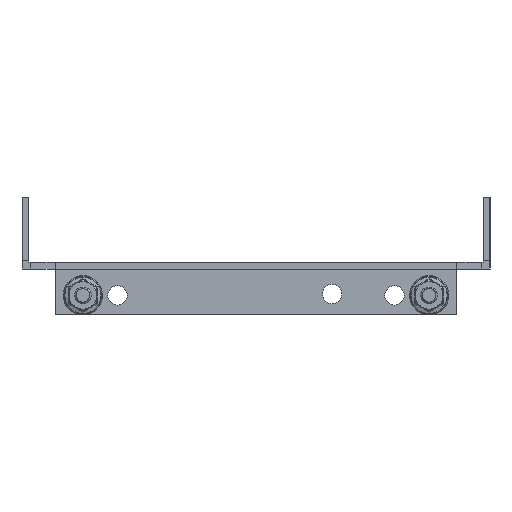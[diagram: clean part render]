
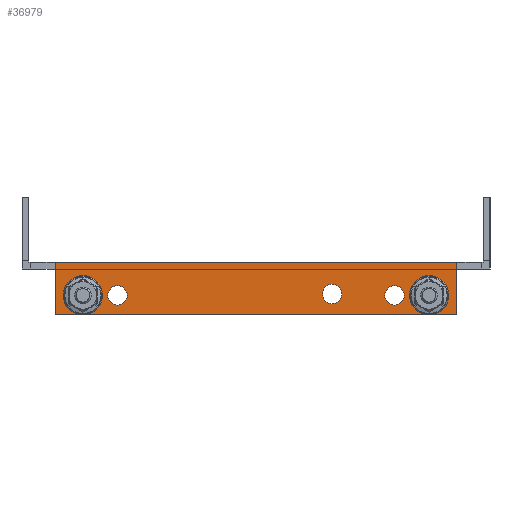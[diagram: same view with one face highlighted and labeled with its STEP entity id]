
A CAD part, left-side view. The second image highlights one B-rep face of the part: STEP entity #36979.
In plain terms, the highlighted planar face has unit normal (-1, 0, 0).
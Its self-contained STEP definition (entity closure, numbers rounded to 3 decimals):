
#24914 = VERTEX_POINT('',#24915);
#24915 = CARTESIAN_POINT('',(-550.,72.5,2.5));
#24921 = EDGE_CURVE('',#24922,#24914,#24924,.T.);
#24922 = VERTEX_POINT('',#24923);
#24923 = CARTESIAN_POINT('',(-550.,-72.5,2.5));
#24924 = LINE('',#24925,#24926);
#24925 = CARTESIAN_POINT('',(-550.,-82.,2.5));
#24926 = VECTOR('',#24927,1.);
#24927 = DIRECTION('',(-0.,1.,-0.));
#36858 = VERTEX_POINT('',#36859);
#36859 = CARTESIAN_POINT('',(-550.,-72.5,-0.6));
#36874 = EDGE_CURVE('',#36858,#24922,#36875,.T.);
#36875 = LINE('',#36876,#36877);
#36876 = CARTESIAN_POINT('',(-550.,-72.5,-0.6));
#36877 = VECTOR('',#36878,1.);
#36878 = DIRECTION('',(0.,-0.,1.));
#36898 = VERTEX_POINT('',#36899);
#36899 = CARTESIAN_POINT('',(-550.,72.5,-0.6));
#36905 = EDGE_CURVE('',#36898,#24914,#36906,.T.);
#36906 = LINE('',#36907,#36908);
#36907 = CARTESIAN_POINT('',(-550.,72.5,0.));
#36908 = VECTOR('',#36909,1.);
#36909 = DIRECTION('',(0.,0.,1.));
#36921 = EDGE_CURVE('',#36922,#36898,#36924,.T.);
#36922 = VERTEX_POINT('',#36923);
#36923 = CARTESIAN_POINT('',(-550.,72.5,-16.5));
#36924 = LINE('',#36925,#36926);
#36925 = CARTESIAN_POINT('',(-550.,72.5,0.));
#36926 = VECTOR('',#36927,1.);
#36927 = DIRECTION('',(0.,-0.,1.));
#36961 = EDGE_CURVE('',#36858,#36962,#36964,.T.);
#36962 = VERTEX_POINT('',#36963);
#36963 = CARTESIAN_POINT('',(-550.,-72.5,-16.5));
#36964 = LINE('',#36965,#36966);
#36965 = CARTESIAN_POINT('',(-550.,-72.5,-16.5));
#36966 = VECTOR('',#36967,1.);
#36967 = DIRECTION('',(0.,-0.,-1.));
#36979 = ADVANCED_FACE('',(#36980,#36991,#37011,#37031,#37042,#37053),
  #37066,.T.);
#36980 = FACE_BOUND('',#36981,.T.);
#36981 = EDGE_LOOP('',(#36982));
#36982 = ORIENTED_EDGE('',*,*,#36983,.T.);
#36983 = EDGE_CURVE('',#36984,#36984,#36986,.T.);
#36984 = VERTEX_POINT('',#36985);
#36985 = CARTESIAN_POINT('',(-550.,-27.499,-12.5));
#36986 = CIRCLE('',#36987,3.5);
#36987 = AXIS2_PLACEMENT_3D('',#36988,#36989,#36990);
#36988 = CARTESIAN_POINT('',(-550.,-27.499,-9.));
#36989 = DIRECTION('',(1.,0.,0.));
#36990 = DIRECTION('',(0.,-0.,-1.));
#36991 = FACE_BOUND('',#36992,.T.);
#36992 = EDGE_LOOP('',(#36993,#37004));
#36993 = ORIENTED_EDGE('',*,*,#36994,.F.);
#36994 = EDGE_CURVE('',#36995,#36997,#36999,.T.);
#36995 = VERTEX_POINT('',#36996);
#36996 = CARTESIAN_POINT('',(-550.,-62.5,-13.));
#36997 = VERTEX_POINT('',#36998);
#36998 = CARTESIAN_POINT('',(-550.,-62.5,-6.));
#36999 = CIRCLE('',#37000,3.5);
#37000 = AXIS2_PLACEMENT_3D('',#37001,#37002,#37003);
#37001 = CARTESIAN_POINT('',(-550.,-62.5,-9.5));
#37002 = DIRECTION('',(-1.,0.,0.));
#37003 = DIRECTION('',(0.,0.,-1.));
#37004 = ORIENTED_EDGE('',*,*,#37005,.F.);
#37005 = EDGE_CURVE('',#36997,#36995,#37006,.T.);
#37006 = CIRCLE('',#37007,3.5);
#37007 = AXIS2_PLACEMENT_3D('',#37008,#37009,#37010);
#37008 = CARTESIAN_POINT('',(-550.,-62.5,-9.5));
#37009 = DIRECTION('',(-1.,0.,0.));
#37010 = DIRECTION('',(0.,0.,-1.));
#37011 = FACE_BOUND('',#37012,.T.);
#37012 = EDGE_LOOP('',(#37013,#37024));
#37013 = ORIENTED_EDGE('',*,*,#37014,.F.);
#37014 = EDGE_CURVE('',#37015,#37017,#37019,.T.);
#37015 = VERTEX_POINT('',#37016);
#37016 = CARTESIAN_POINT('',(-550.,-50.,-13.));
#37017 = VERTEX_POINT('',#37018);
#37018 = CARTESIAN_POINT('',(-550.,-50.,-6.));
#37019 = CIRCLE('',#37020,3.5);
#37020 = AXIS2_PLACEMENT_3D('',#37021,#37022,#37023);
#37021 = CARTESIAN_POINT('',(-550.,-50.,-9.5));
#37022 = DIRECTION('',(-1.,0.,0.));
#37023 = DIRECTION('',(0.,0.,-1.));
#37024 = ORIENTED_EDGE('',*,*,#37025,.F.);
#37025 = EDGE_CURVE('',#37017,#37015,#37026,.T.);
#37026 = CIRCLE('',#37027,3.5);
#37027 = AXIS2_PLACEMENT_3D('',#37028,#37029,#37030);
#37028 = CARTESIAN_POINT('',(-550.,-50.,-9.5));
#37029 = DIRECTION('',(-1.,0.,0.));
#37030 = DIRECTION('',(0.,0.,-1.));
#37031 = FACE_BOUND('',#37032,.T.);
#37032 = EDGE_LOOP('',(#37033));
#37033 = ORIENTED_EDGE('',*,*,#37034,.F.);
#37034 = EDGE_CURVE('',#37035,#37035,#37037,.T.);
#37035 = VERTEX_POINT('',#37036);
#37036 = CARTESIAN_POINT('',(-550.,50.,-6.));
#37037 = CIRCLE('',#37038,3.5);
#37038 = AXIS2_PLACEMENT_3D('',#37039,#37040,#37041);
#37039 = CARTESIAN_POINT('',(-550.,50.,-9.5));
#37040 = DIRECTION('',(-1.,0.,0.));
#37041 = DIRECTION('',(0.,0.,1.));
#37042 = FACE_BOUND('',#37043,.T.);
#37043 = EDGE_LOOP('',(#37044));
#37044 = ORIENTED_EDGE('',*,*,#37045,.F.);
#37045 = EDGE_CURVE('',#37046,#37046,#37048,.T.);
#37046 = VERTEX_POINT('',#37047);
#37047 = CARTESIAN_POINT('',(-550.,62.5,-6.));
#37048 = CIRCLE('',#37049,3.5);
#37049 = AXIS2_PLACEMENT_3D('',#37050,#37051,#37052);
#37050 = CARTESIAN_POINT('',(-550.,62.5,-9.5));
#37051 = DIRECTION('',(-1.,0.,0.));
#37052 = DIRECTION('',(0.,0.,1.));
#37053 = FACE_BOUND('',#37054,.T.);
#37054 = EDGE_LOOP('',(#37055,#37056,#37057,#37058,#37059,#37060));
#37055 = ORIENTED_EDGE('',*,*,#36961,.F.);
#37056 = ORIENTED_EDGE('',*,*,#36874,.T.);
#37057 = ORIENTED_EDGE('',*,*,#24921,.T.);
#37058 = ORIENTED_EDGE('',*,*,#36905,.F.);
#37059 = ORIENTED_EDGE('',*,*,#36921,.F.);
#37060 = ORIENTED_EDGE('',*,*,#37061,.F.);
#37061 = EDGE_CURVE('',#36962,#36922,#37062,.T.);
#37062 = LINE('',#37063,#37064);
#37063 = CARTESIAN_POINT('',(-550.,72.5,-16.5));
#37064 = VECTOR('',#37065,1.);
#37065 = DIRECTION('',(-0.,1.,-0.));
#37066 = PLANE('',#37067);
#37067 = AXIS2_PLACEMENT_3D('',#37068,#37069,#37070);
#37068 = CARTESIAN_POINT('',(-550.,72.5,0.));
#37069 = DIRECTION('',(-1.,0.,0.));
#37070 = DIRECTION('',(0.,0.,1.));
